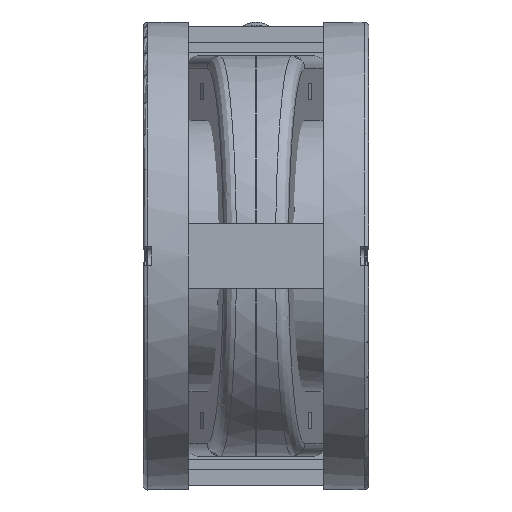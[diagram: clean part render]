
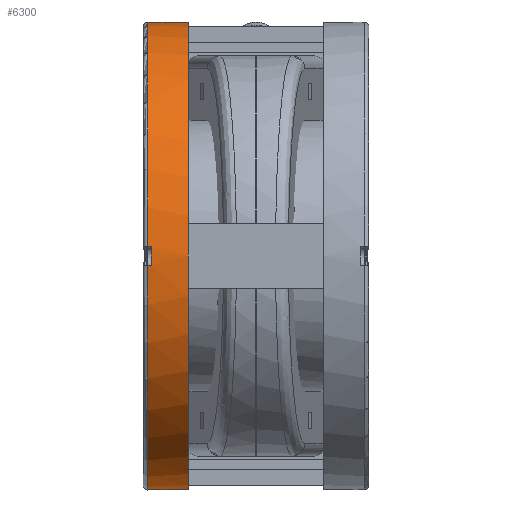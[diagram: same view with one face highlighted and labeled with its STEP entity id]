
A CAD part, front view. The second image highlights one B-rep face of the part: STEP entity #6300.
In plain terms, the highlighted cylindrical face has radius 72.5 mm (diameter 145 mm), a full revolution.
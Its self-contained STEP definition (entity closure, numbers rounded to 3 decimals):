
#3580=ELLIPSE('',#22794,72.777,72.5);
#4046=FACE_BOUND('',#8777,.T.);
#4047=FACE_BOUND('',#8778,.T.);
#4709=CYLINDRICAL_SURFACE('',#22796,72.5);
#5376=CIRCLE('',#22789,72.5);
#5377=CIRCLE('',#22791,72.5);
#5378=CIRCLE('',#22792,72.5);
#5379=CIRCLE('',#22793,72.5);
#5380=CIRCLE('',#22795,72.5);
#6300=ADVANCED_FACE('',(#4046,#4047),#4709,.T.);
#8777=EDGE_LOOP('',(#15834,#15835,#15836,#15837,#15838,#15839,#15840,#15841));
#8778=EDGE_LOOP('',(#15842,#15843));
#10267=LINE('',#34015,#11758);
#10268=LINE('',#34020,#11759);
#10269=LINE('',#34021,#11760);
#10270=LINE('',#34025,#11761);
#11758=VECTOR('',#26914,1.);
#11759=VECTOR('',#26917,1.);
#11760=VECTOR('',#26918,1.);
#11761=VECTOR('',#26921,1.);
#15834=ORIENTED_EDGE('',*,*,#20733,.F.);
#15835=ORIENTED_EDGE('',*,*,#20734,.F.);
#15836=ORIENTED_EDGE('',*,*,#20735,.F.);
#15837=ORIENTED_EDGE('',*,*,#20728,.T.);
#15838=ORIENTED_EDGE('',*,*,#20736,.F.);
#15839=ORIENTED_EDGE('',*,*,#20737,.F.);
#15840=ORIENTED_EDGE('',*,*,#20738,.F.);
#15841=ORIENTED_EDGE('',*,*,#20739,.T.);
#15842=ORIENTED_EDGE('',*,*,#20740,.T.);
#15843=ORIENTED_EDGE('',*,*,#20741,.T.);
#18423=VERTEX_POINT('',#33987);
#18426=VERTEX_POINT('',#33992);
#18431=VERTEX_POINT('',#34016);
#18432=VERTEX_POINT('',#34017);
#18433=VERTEX_POINT('',#34019);
#18434=VERTEX_POINT('',#34022);
#18435=VERTEX_POINT('',#34024);
#18436=VERTEX_POINT('',#34026);
#18437=VERTEX_POINT('',#34029);
#18438=VERTEX_POINT('',#34030);
#20728=EDGE_CURVE('',#18423,#18426,#5376,.T.);
#20733=EDGE_CURVE('',#18431,#18432,#10267,.T.);
#20734=EDGE_CURVE('',#18433,#18431,#5377,.T.);
#20735=EDGE_CURVE('',#18423,#18433,#10268,.T.);
#20736=EDGE_CURVE('',#18434,#18426,#10269,.T.);
#20737=EDGE_CURVE('',#18435,#18434,#5378,.T.);
#20738=EDGE_CURVE('',#18436,#18435,#10270,.T.);
#20739=EDGE_CURVE('',#18436,#18432,#5379,.T.);
#20740=EDGE_CURVE('',#18437,#18438,#3580,.T.);
#20741=EDGE_CURVE('',#18438,#18437,#5380,.T.);
#22789=AXIS2_PLACEMENT_3D('',#33993,#26910,#26911);
#22791=AXIS2_PLACEMENT_3D('',#34018,#26915,#26916);
#22792=AXIS2_PLACEMENT_3D('',#34023,#26919,#26920);
#22793=AXIS2_PLACEMENT_3D('',#34027,#26922,#26923);
#22794=AXIS2_PLACEMENT_3D('',#34028,#26924,#26925);
#22795=AXIS2_PLACEMENT_3D('',#34031,#26926,#26927);
#22796=AXIS2_PLACEMENT_3D('',#34032,#26928,#26929);
#26910=DIRECTION('',(1.,0.,0.));
#26911=DIRECTION('',(0.,0.,1.));
#26914=DIRECTION('',(1.,0.,0.));
#26915=DIRECTION('',(-1.,0.,0.));
#26916=DIRECTION('',(0.,0.,1.));
#26917=DIRECTION('',(-1.,0.,0.));
#26918=DIRECTION('',(1.,0.,0.));
#26919=DIRECTION('',(-1.,0.,0.));
#26920=DIRECTION('',(0.,0.,1.));
#26921=DIRECTION('',(-1.,0.,0.));
#26922=DIRECTION('',(1.,0.,0.));
#26923=DIRECTION('',(0.,0.,1.));
#26924=DIRECTION('',(-0.996,-0.087,0.));
#26925=DIRECTION('',(-0.087,0.996,0.));
#26926=DIRECTION('',(-1.,0.,0.));
#26927=DIRECTION('',(0.,0.,1.));
#26928=DIRECTION('',(-1.,0.,0.));
#26929=DIRECTION('',(0.,0.,1.));
#33987=CARTESIAN_POINT('',(2.5,-72.438,3.));
#33992=CARTESIAN_POINT('',(2.5,-72.438,-3.));
#33993=CARTESIAN_POINT('',(2.5,0.,0.));
#34015=CARTESIAN_POINT('',(0.,72.438,3.));
#34016=CARTESIAN_POINT('',(1.5,72.438,3.));
#34017=CARTESIAN_POINT('',(2.5,72.438,3.));
#34018=CARTESIAN_POINT('',(1.5,0.,0.));
#34019=CARTESIAN_POINT('',(1.5,-72.438,3.));
#34020=CARTESIAN_POINT('',(0.,-72.438,3.));
#34021=CARTESIAN_POINT('',(0.,-72.438,-3.));
#34022=CARTESIAN_POINT('',(1.5,-72.438,-3.));
#34023=CARTESIAN_POINT('',(1.5,0.,0.));
#34024=CARTESIAN_POINT('',(1.5,72.438,-3.));
#34025=CARTESIAN_POINT('',(0.,72.438,-3.));
#34026=CARTESIAN_POINT('',(2.5,72.438,-3.));
#34027=CARTESIAN_POINT('',(2.5,0.,0.));
#34028=CARTESIAN_POINT('',(19.843,0.,0.));
#34029=CARTESIAN_POINT('',(14.,66.785,28.214));
#34030=CARTESIAN_POINT('',(14.,66.785,-28.214));
#34031=CARTESIAN_POINT('',(14.,0.,0.));
#34032=CARTESIAN_POINT('',(0.,0.,0.));
